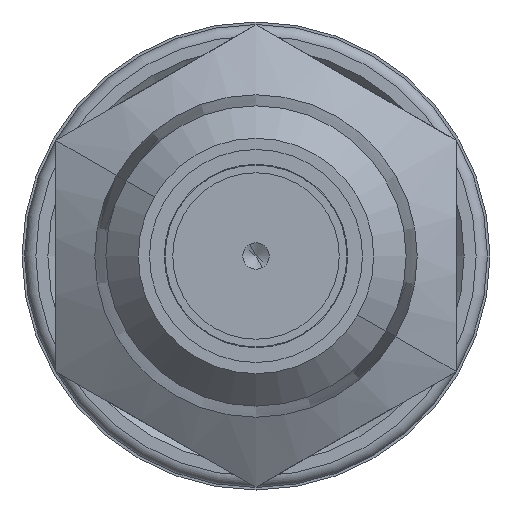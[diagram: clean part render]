
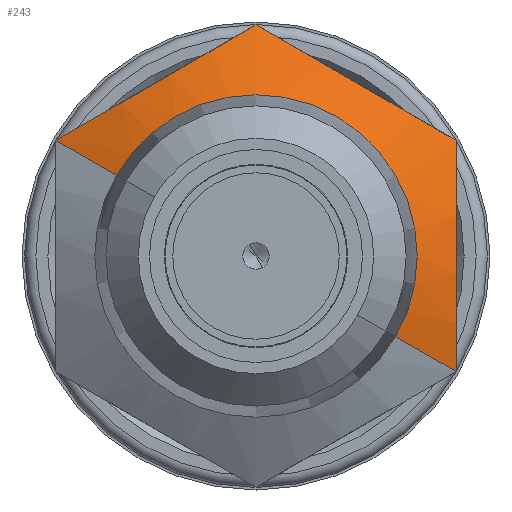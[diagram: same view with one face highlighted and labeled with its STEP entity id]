
A CAD part, front view. The second image highlights one B-rep face of the part: STEP entity #243.
In plain terms, the highlighted conical face has half-angle 60 degrees and reference radius 15.581 mm.
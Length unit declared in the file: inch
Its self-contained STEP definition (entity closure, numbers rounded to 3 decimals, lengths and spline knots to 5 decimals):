
#11 = CARTESIAN_POINT ( 'NONE',  ( 0.17621, -5.26095, 0.5117 ) ) ;
#49 = CARTESIAN_POINT ( 'NONE',  ( 0.02159, -5.22515, 0.60097 ) ) ;
#53 = CARTESIAN_POINT ( 'NONE',  ( -0.44419, -5.24432, 0.35698 ) ) ;
#101 = CARTESIAN_POINT ( 'NONE',  ( -0.3559, -5.26083, 0.40795 ) ) ;
#166 = AXIS2_PLACEMENT_3D ( 'NONE', #2261, #2999, #1382 ) ;
#216 = VERTEX_POINT ( 'NONE', #224 ) ;
#224 = CARTESIAN_POINT ( 'NONE',  ( 0.37063, -5.32503, -0.21398 ) ) ;
#243 = ADVANCED_FACE ( 'NONE', ( #2305 ), #1543, .T. ) ;
#255 = CARTESIAN_POINT ( 'NONE',  ( -0.53125, -5.21795, 0.30672 ) ) ;
#351 = CARTESIAN_POINT ( 'NONE',  ( 0.28814, -5.2654, 0.44708 ) ) ;
#462 = CARTESIAN_POINT ( 'NONE',  ( 0., -5.21795, 0.61343 ) ) ;
#483 = CARTESIAN_POINT ( 'NONE',  ( -0.17598, -5.25998, 0.51183 ) ) ;
#511 = B_SPLINE_CURVE_WITH_KNOTS ( 'NONE', 3,
 ( #2097, #1133, #53, #101, #1470, #4220, #2167, #483, #1857, #1157, #3530, #462 ),
 .UNSPECIFIED., .F., .F.,
 ( 4, 2, 2, 2, 2, 4 ),
 ( 0., 0.00393, 0.00787, 0.00984, 0.0118, 0.01574 ),
 .UNSPECIFIED. ) ;
#622 = EDGE_CURVE ( 'NONE', #216, #3097, #2725, .T. ) ;
#673 = CARTESIAN_POINT ( 'NONE',  ( 0.53125, -5.23242, -0.25657 ) ) ;
#692 = CARTESIAN_POINT ( 'NONE',  ( 0.53125, -5.24432, 0.20619 ) ) ;
#738 = CIRCLE ( 'NONE', #166, 0.42796 ) ;
#752 = EDGE_CURVE ( 'NONE', #1477, #2456, #511, .T. ) ;
#753 = CARTESIAN_POINT ( 'NONE',  ( -0.37063, -5.32503, 0.21398 ) ) ;
#1004 = DIRECTION ( 'NONE',  ( 0.75, 0.5, -0.433 ) ) ;
#1014 = CARTESIAN_POINT ( 'NONE',  ( 0.53125, -5.24437, -0.20601 ) ) ;
#1082 = CARTESIAN_POINT ( 'NONE',  ( -0.53125, -5.21795, 0.30672 ) ) ;
#1133 = CARTESIAN_POINT ( 'NONE',  ( -0.48788, -5.23241, 0.33176 ) ) ;
#1157 = CARTESIAN_POINT ( 'NONE',  ( -0.08721, -5.24437, 0.56308 ) ) ;
#1163 = ORIENTED_EDGE ( 'NONE', *, *, #2130, .F. ) ;
#1199 = EDGE_CURVE ( 'NONE', #2456, #2462, #2758, .T. ) ;
#1223 = VERTEX_POINT ( 'NONE', #753 ) ;
#1368 = CARTESIAN_POINT ( 'NONE',  ( 0.53125, -5.21795, -0.30672 ) ) ;
#1378 = CARTESIAN_POINT ( 'NONE',  ( 0.31064, -5.26429, 0.43409 ) ) ;
#1382 = DIRECTION ( 'NONE',  ( -0.866, 0., 0.5 ) ) ;
#1393 = ORIENTED_EDGE ( 'NONE', *, *, #3087, .F. ) ;
#1423 = CARTESIAN_POINT ( 'NONE',  ( 0.10964, -5.24856, 0.55013 ) ) ;
#1470 = CARTESIAN_POINT ( 'NONE',  ( -0.3113, -5.26536, 0.43371 ) ) ;
#1477 = VERTEX_POINT ( 'NONE', #255 ) ;
#1531 = ORIENTED_EDGE ( 'NONE', *, *, #2395, .T. ) ;
#1543 = CONICAL_SURFACE ( 'NONE', #2035, 0.61343, 1.047 ) ;
#1665 = CARTESIAN_POINT ( 'NONE',  ( 0.53125, -5.23241, 0.25664 ) ) ;
#1698 = CARTESIAN_POINT ( 'NONE',  ( 0.04339, -5.23175, 0.58839 ) ) ;
#1707 = CARTESIAN_POINT ( 'NONE',  ( 0.53125, -5.26083, 0.10425 ) ) ;
#1739 = CARTESIAN_POINT ( 'NONE',  ( 0., -5.21795, 0.61343 ) ) ;
#1757 = B_SPLINE_CURVE_WITH_KNOTS ( 'NONE', 3,
 ( #3405, #1665, #692, #1707, #3427, #2711, #2733, #3360, #4082, #1014, #673, #1368 ),
 .UNSPECIFIED., .F., .F.,
 ( 4, 2, 2, 2, 2, 4 ),
 ( 0., 0.00393, 0.00787, 0.00984, 0.0118, 0.01574 ),
 .UNSPECIFIED. ) ;
#1857 = CARTESIAN_POINT ( 'NONE',  ( -0.15369, -5.25677, 0.5247 ) ) ;
#1954 = VECTOR ( 'NONE', #2752, 39.37008 ) ;
#1974 = DIRECTION ( 'NONE',  ( 0., 1., 0. ) ) ;
#2035 = AXIS2_PLACEMENT_3D ( 'NONE', #3358, #1974, #3336 ) ;
#2041 = CARTESIAN_POINT ( 'NONE',  ( 0.53125, -5.21795, -0.30672 ) ) ;
#2097 = CARTESIAN_POINT ( 'NONE',  ( -0.53125, -5.21795, 0.30672 ) ) ;
#2130 = EDGE_CURVE ( 'NONE', #2462, #3097, #1757, .T. ) ;
#2167 = CARTESIAN_POINT ( 'NONE',  ( -0.22086, -5.2643, 0.48592 ) ) ;
#2261 = CARTESIAN_POINT ( 'NONE',  ( 0., -5.32503, 0. ) ) ;
#2305 = FACE_OUTER_BOUND ( 'NONE', #4369, .T. ) ;
#2350 = CARTESIAN_POINT ( 'NONE',  ( 0., -5.21795, 0.61343 ) ) ;
#2390 = CARTESIAN_POINT ( 'NONE',  ( 0.22082, -5.2654, 0.48594 ) ) ;
#2395 = EDGE_CURVE ( 'NONE', #1223, #216, #738, .T. ) ;
#2456 = VERTEX_POINT ( 'NONE', #2350 ) ;
#2462 = VERTEX_POINT ( 'NONE', #4075 ) ;
#2468 = VECTOR ( 'NONE', #1004, 39.37008 ) ;
#2711 = CARTESIAN_POINT ( 'NONE',  ( 0.53125, -5.26541, -0.02549 ) ) ;
#2725 = LINE ( 'NONE', #2763, #2468 ) ;
#2733 = CARTESIAN_POINT ( 'NONE',  ( 0.53125, -5.2643, -0.05169 ) ) ;
#2743 = CARTESIAN_POINT ( 'NONE',  ( 0.37825, -5.25666, 0.39505 ) ) ;
#2752 = DIRECTION ( 'NONE',  ( -0.75, 0.5, 0.433 ) ) ;
#2758 = B_SPLINE_CURVE_WITH_KNOTS ( 'NONE', 3,
 ( #1739, #49, #1698, #3813, #1423, #11, #2390, #351, #1378, #4420, #2743, #4126, #3480, #3752 ),
 .UNSPECIFIED., .F., .F.,
 ( 4, 2, 2, 2, 2, 2, 4 ),
 ( 0.01367, 0.01564, 0.01761, 0.02155, 0.02352, 0.02549, 0.02943 ),
 .UNSPECIFIED. ) ;
#2763 = CARTESIAN_POINT ( 'NONE',  ( 0.53125, -5.21795, -0.30672 ) ) ;
#2999 = DIRECTION ( 'NONE',  ( 0., 1., 0. ) ) ;
#3037 = ORIENTED_EDGE ( 'NONE', *, *, #622, .T. ) ;
#3087 = EDGE_CURVE ( 'NONE', #1223, #1477, #4139, .T. ) ;
#3097 = VERTEX_POINT ( 'NONE', #2041 ) ;
#3336 = DIRECTION ( 'NONE',  ( -0.866, 0., 0.5 ) ) ;
#3358 = CARTESIAN_POINT ( 'NONE',  ( 0., -5.21795, 0. ) ) ;
#3360 = CARTESIAN_POINT ( 'NONE',  ( 0.53125, -5.25998, -0.10351 ) ) ;
#3405 = CARTESIAN_POINT ( 'NONE',  ( 0.53125, -5.21795, 0.30672 ) ) ;
#3427 = CARTESIAN_POINT ( 'NONE',  ( 0.53125, -5.26536, 0.05274 ) ) ;
#3480 = CARTESIAN_POINT ( 'NONE',  ( 0.48832, -5.23226, 0.33151 ) ) ;
#3530 = CARTESIAN_POINT ( 'NONE',  ( -0.04343, -5.23242, 0.58836 ) ) ;
#3752 = CARTESIAN_POINT ( 'NONE',  ( 0.53125, -5.21795, 0.30672 ) ) ;
#3813 = CARTESIAN_POINT ( 'NONE',  ( 0.08747, -5.24348, 0.56294 ) ) ;
#4058 = ORIENTED_EDGE ( 'NONE', *, *, #1199, .F. ) ;
#4075 = CARTESIAN_POINT ( 'NONE',  ( 0.53125, -5.21795, 0.30672 ) ) ;
#4082 = CARTESIAN_POINT ( 'NONE',  ( 0.53125, -5.25677, -0.12925 ) ) ;
#4126 = CARTESIAN_POINT ( 'NONE',  ( 0.44481, -5.24418, 0.35662 ) ) ;
#4139 = LINE ( 'NONE', #1082, #1954 ) ;
#4220 = CARTESIAN_POINT ( 'NONE',  ( -0.24355, -5.26541, 0.47282 ) ) ;
#4287 = ORIENTED_EDGE ( 'NONE', *, *, #752, .F. ) ;
#4369 = EDGE_LOOP ( 'NONE', ( #1531, #3037, #1163, #4058, #4287, #1393 ) ) ;
#4420 = CARTESIAN_POINT ( 'NONE',  ( 0.35578, -5.25992, 0.40803 ) ) ;
